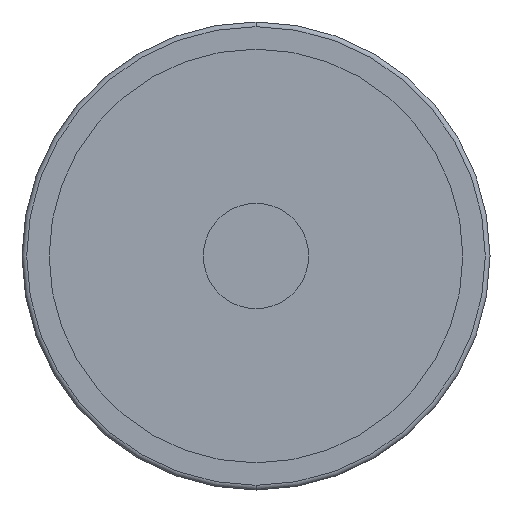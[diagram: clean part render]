
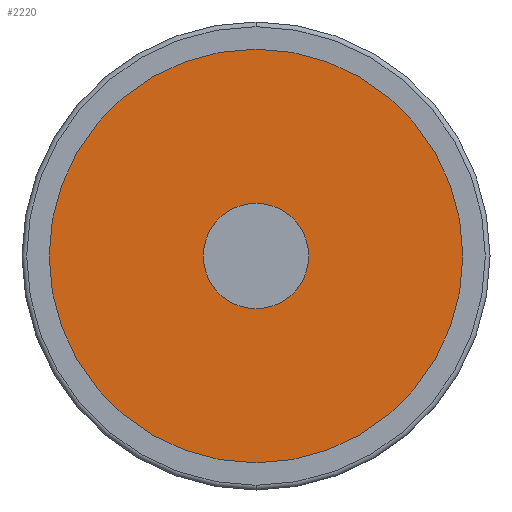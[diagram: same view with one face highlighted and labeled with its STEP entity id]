
A CAD part, front view. The second image highlights one B-rep face of the part: STEP entity #2220.
In plain terms, the highlighted planar face has unit normal (0, -1, 0).
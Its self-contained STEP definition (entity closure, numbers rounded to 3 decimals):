
#112 = DIRECTION ( 'NONE',  ( 1., 0., 0. ) ) ;
#141 = VERTEX_POINT ( 'NONE', #392 ) ;
#173 = CARTESIAN_POINT ( 'NONE',  ( 0., 4.5, 0. ) ) ;
#201 = AXIS2_PLACEMENT_3D ( 'NONE', #173, #620, #1613 ) ;
#214 = ORIENTED_EDGE ( 'NONE', *, *, #1756, .T. ) ;
#392 = CARTESIAN_POINT ( 'NONE',  ( -10.25, 4.5, 0. ) ) ;
#399 = VERTEX_POINT ( 'NONE', #1552 ) ;
#510 = VERTEX_POINT ( 'NONE', #1335 ) ;
#566 = DIRECTION ( 'NONE',  ( 0., -1., 0. ) ) ;
#579 = DIRECTION ( 'NONE',  ( 0., -1., 0. ) ) ;
#598 = CIRCLE ( 'NONE', #1183, 44.3 ) ;
#602 = AXIS2_PLACEMENT_3D ( 'NONE', #1283, #2041, #112 ) ;
#620 = DIRECTION ( 'NONE',  ( 0., -1., 0. ) ) ;
#757 = DIRECTION ( 'NONE',  ( 1., 0., 0. ) ) ;
#798 = EDGE_CURVE ( 'NONE', #399, #141, #816, .T. ) ;
#816 = CIRCLE ( 'NONE', #2478, 10.25 ) ;
#1036 = CARTESIAN_POINT ( 'NONE',  ( 0., 4.5, 0. ) ) ;
#1083 = EDGE_CURVE ( 'NONE', #141, #399, #1412, .T. ) ;
#1139 = EDGE_CURVE ( 'NONE', #1742, #510, #598, .T. ) ;
#1183 = AXIS2_PLACEMENT_3D ( 'NONE', #2473, #579, #757 ) ;
#1216 = DIRECTION ( 'NONE',  ( 1., 0., 0. ) ) ;
#1274 = PLANE ( 'NONE',  #602 ) ;
#1283 = CARTESIAN_POINT ( 'NONE',  ( -44.3, 4.5, 0. ) ) ;
#1335 = CARTESIAN_POINT ( 'NONE',  ( 44.3, 4.5, 0. ) ) ;
#1396 = CARTESIAN_POINT ( 'NONE',  ( 0., 4.5, 0. ) ) ;
#1412 = CIRCLE ( 'NONE', #1896, 10.25 ) ;
#1552 = CARTESIAN_POINT ( 'NONE',  ( 10.25, 4.5, 0. ) ) ;
#1613 = DIRECTION ( 'NONE',  ( 1., 0., 0. ) ) ;
#1621 = FACE_BOUND ( 'NONE', #1719, .T. ) ;
#1699 = CIRCLE ( 'NONE', #201, 44.3 ) ;
#1719 = EDGE_LOOP ( 'NONE', ( #2370, #1745 ) ) ;
#1742 = VERTEX_POINT ( 'NONE', #1956 ) ;
#1745 = ORIENTED_EDGE ( 'NONE', *, *, #1083, .F. ) ;
#1753 = ORIENTED_EDGE ( 'NONE', *, *, #1139, .T. ) ;
#1756 = EDGE_CURVE ( 'NONE', #510, #1742, #1699, .T. ) ;
#1805 = FACE_OUTER_BOUND ( 'NONE', #2054, .T. ) ;
#1808 = DIRECTION ( 'NONE',  ( 1., 0., 0. ) ) ;
#1896 = AXIS2_PLACEMENT_3D ( 'NONE', #1036, #566, #1216 ) ;
#1956 = CARTESIAN_POINT ( 'NONE',  ( -44.3, 4.5, 0. ) ) ;
#2041 = DIRECTION ( 'NONE',  ( 0., -1., 0. ) ) ;
#2054 = EDGE_LOOP ( 'NONE', ( #1753, #214 ) ) ;
#2186 = DIRECTION ( 'NONE',  ( 0., -1., 0. ) ) ;
#2220 = ADVANCED_FACE ( 'NONE', ( #1805, #1621 ), #1274, .T. ) ;
#2370 = ORIENTED_EDGE ( 'NONE', *, *, #798, .F. ) ;
#2473 = CARTESIAN_POINT ( 'NONE',  ( 0., 4.5, 0. ) ) ;
#2478 = AXIS2_PLACEMENT_3D ( 'NONE', #1396, #2186, #1808 ) ;
